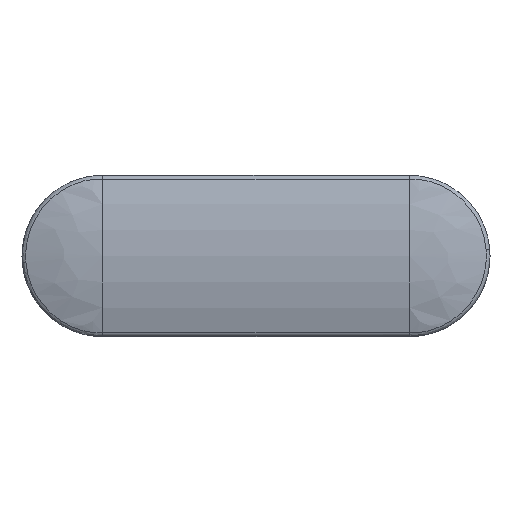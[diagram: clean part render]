
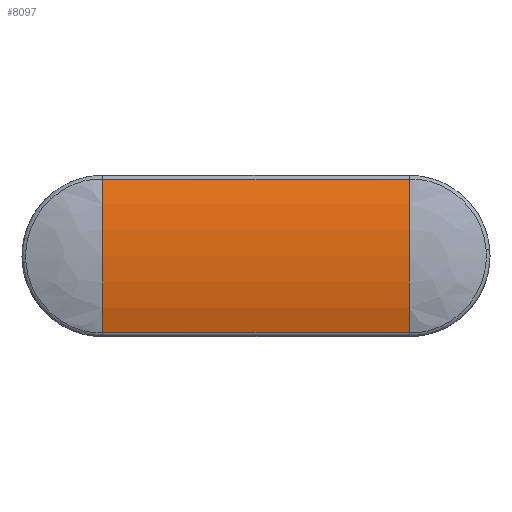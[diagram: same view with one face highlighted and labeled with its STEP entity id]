
A CAD part, top view. The second image highlights one B-rep face of the part: STEP entity #8097.
In plain terms, the highlighted cylindrical face has radius 9.553 mm (diameter 19.106 mm), a partial arc.
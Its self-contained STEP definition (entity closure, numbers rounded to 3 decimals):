
#1383=CARTESIAN_POINT('',(1.215,3.301,8.446));
#1419=CARTESIAN_POINT('',(1.215,3.301,8.446));
#1420=CARTESIAN_POINT('',(1.215,3.101,8.51));
#1421=CARTESIAN_POINT('',(1.215,2.65,8.638));
#1422=CARTESIAN_POINT('',(1.215,1.937,8.785));
#1423=CARTESIAN_POINT('',(1.215,1.166,8.879));
#1424=CARTESIAN_POINT('',(1.215,0.649,8.9));
#1425=CARTESIAN_POINT('',(1.215,0.39,8.9));
#1427=CARTESIAN_POINT('',(1.215,0.39,8.9));
#1428=CARTESIAN_POINT('',(1.215,0.131,8.9));
#1429=CARTESIAN_POINT('',(1.215,-0.386,
8.879));
#1430=CARTESIAN_POINT('',(1.215,-1.157,8.785));
#1431=CARTESIAN_POINT('',(1.215,-1.87,8.638));
#1432=CARTESIAN_POINT('',(1.215,-2.321,8.51));
#1433=CARTESIAN_POINT('',(1.215,-2.521,8.446));
#1465=DIRECTION('',(-1.,0.,0.));
#1466=VECTOR('',#1465,11.6);
#1467=CARTESIAN_POINT('',(12.815,-2.521,8.446));
#1468=LINE('',#1467,#1466);
#1469=DIRECTION('',(1.,0.,0.));
#1470=VECTOR('',#1469,11.6);
#1471=CARTESIAN_POINT('',(1.215,3.301,8.446));
#1472=LINE('',#1471,#1470);
#1536=CARTESIAN_POINT('',(12.815,-2.521,8.446));
#1537=CARTESIAN_POINT('',(12.815,-2.321,8.51));
#1538=CARTESIAN_POINT('',(12.815,-1.87,8.638));
#1539=CARTESIAN_POINT('',(12.815,-1.157,8.785));
#1540=CARTESIAN_POINT('',(12.815,-0.386,
8.879));
#1541=CARTESIAN_POINT('',(12.815,0.131,8.9));
#1542=CARTESIAN_POINT('',(12.815,0.39,8.9));
#1544=CARTESIAN_POINT('',(12.815,0.39,8.9));
#1545=CARTESIAN_POINT('',(12.815,0.649,8.9));
#1546=CARTESIAN_POINT('',(12.815,1.166,8.879));
#1547=CARTESIAN_POINT('',(12.815,1.937,8.785));
#1548=CARTESIAN_POINT('',(12.815,2.65,8.638));
#1549=CARTESIAN_POINT('',(12.815,3.101,8.51));
#1550=CARTESIAN_POINT('',(12.815,3.301,8.446));
#5796=VERTEX_POINT('',#1383);
#5798=VERTEX_POINT('',#1425);
#5799=VERTEX_POINT('',#1433);
#5800=CARTESIAN_POINT('',(12.815,-2.521,8.446));
#5801=VERTEX_POINT('',#5800);
#5802=CARTESIAN_POINT('',(12.815,3.301,8.446));
#5803=VERTEX_POINT('',#5802);
#5804=VERTEX_POINT('',#1544);
#8080=CARTESIAN_POINT('',(7.015,0.39,
-0.653));
#8081=DIRECTION('',(-1.,0.,0.));
#8082=DIRECTION('',(0.,0.319,0.948));
#8083=AXIS2_PLACEMENT_3D('',#8080,#8081,#8082);
#8084=CYLINDRICAL_SURFACE('',#8083,9.553);
#8086=ORIENTED_EDGE('',*,*,#8085,.T.);
#8087=ORIENTED_EDGE('',*,*,#8073,.F.);
#8088=ORIENTED_EDGE('',*,*,#8071,.F.);
#8090=ORIENTED_EDGE('',*,*,#8089,.T.);
#8092=ORIENTED_EDGE('',*,*,#8091,.F.);
#8094=ORIENTED_EDGE('',*,*,#8093,.F.);
#8095=EDGE_LOOP('',(#8086,#8087,#8088,#8090,#8092,#8094));
#8096=FACE_OUTER_BOUND('',#8095,.F.);
#8097=ADVANCED_FACE('',(#8096),#8084,.T.);
#1426=B_SPLINE_CURVE_WITH_KNOTS('',3,(#1419,#1420,#1421,#1422,#1423,#1424,
#1425),.UNSPECIFIED.,.F.,.F.,(4,1,1,1,4),(0.,0.213,
0.475,0.738,1.),.UNSPECIFIED.);
#1434=B_SPLINE_CURVE_WITH_KNOTS('',3,(#1427,#1428,#1429,#1430,#1431,#1432,
#1433),.UNSPECIFIED.,.F.,.F.,(4,1,1,1,4),(0.,0.262,
0.525,0.787,1.),.UNSPECIFIED.);
#1543=B_SPLINE_CURVE_WITH_KNOTS('',3,(#1536,#1537,#1538,#1539,#1540,#1541,
#1542),.UNSPECIFIED.,.F.,.F.,(4,1,1,1,4),(0.,0.213,
0.475,0.738,1.),.UNSPECIFIED.);
#1551=B_SPLINE_CURVE_WITH_KNOTS('',3,(#1544,#1545,#1546,#1547,#1548,#1549,
#1550),.UNSPECIFIED.,.F.,.F.,(4,1,1,1,4),(0.,0.262,
0.525,0.787,1.),.UNSPECIFIED.);
#8071=EDGE_CURVE('',#5796,#5798,#1426,.T.);
#8073=EDGE_CURVE('',#5798,#5799,#1434,.T.);
#8085=EDGE_CURVE('',#5801,#5799,#1468,.T.);
#8089=EDGE_CURVE('',#5796,#5803,#1472,.T.);
#8091=EDGE_CURVE('',#5804,#5803,#1551,.T.);
#8093=EDGE_CURVE('',#5801,#5804,#1543,.T.);
